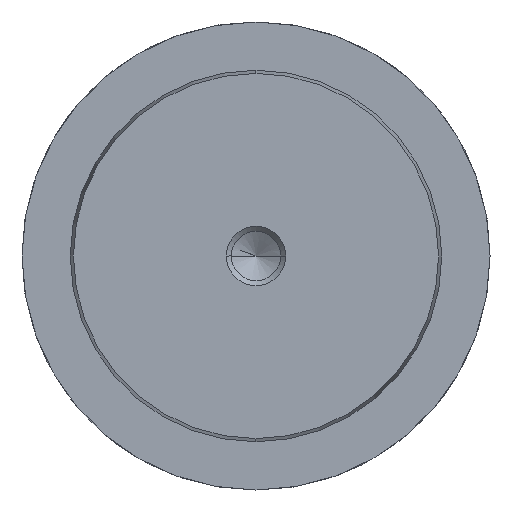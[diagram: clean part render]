
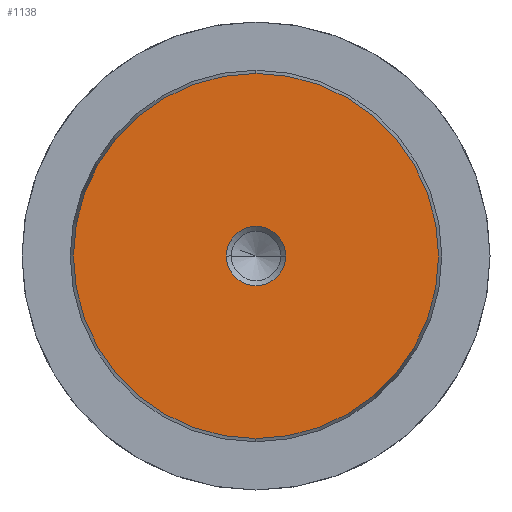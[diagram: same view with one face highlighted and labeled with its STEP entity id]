
A CAD part, left-side view. The second image highlights one B-rep face of the part: STEP entity #1138.
In plain terms, the highlighted planar face has unit normal (-1, 0, 0).
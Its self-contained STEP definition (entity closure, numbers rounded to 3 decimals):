
#1052=CARTESIAN_POINT('Vertex',(0.,0.,-24.578)) ;
#1055=CARTESIAN_POINT('Axis2P3D Location',(0.,0.,0.)) ;
#1059=CARTESIAN_POINT('Vertex',(0.,24.578,0.)) ;
#1062=CARTESIAN_POINT('Axis2P3D Location',(0.,0.,0.)) ;
#1066=CARTESIAN_POINT('Vertex',(0.,0.,24.578)) ;
#1088=CARTESIAN_POINT('Axis2P3D Location',(0.,0.,0.)) ;
#1092=CARTESIAN_POINT('Vertex',(0.,-24.578,0.)) ;
#1095=CARTESIAN_POINT('Axis2P3D Location',(0.,0.,0.)) ;
#1109=CARTESIAN_POINT('Axis2P3D Location',(0.,0.,0.)) ;
#1120=CARTESIAN_POINT('Axis2P3D Location',(0.,0.,0.)) ;
#1124=CARTESIAN_POINT('Vertex',(0.,4.,0.)) ;
#1126=CARTESIAN_POINT('Vertex',(0.,-4.,0.)) ;
#1129=CARTESIAN_POINT('Axis2P3D Location',(0.,0.,0.)) ;
#1056=DIRECTION('Axis2P3D Direction',(1.,-0.,0.)) ;
#1063=DIRECTION('Axis2P3D Direction',(1.,-0.,0.)) ;
#1089=DIRECTION('Axis2P3D Direction',(1.,0.,-0.)) ;
#1096=DIRECTION('Axis2P3D Direction',(1.,0.,-0.)) ;
#1110=DIRECTION('Axis2P3D Direction',(1.,0.,-0.)) ;
#1111=DIRECTION('Axis2P3D XDirection',(-0.,0.,-1.)) ;
#1121=DIRECTION('Axis2P3D Direction',(1.,0.,-0.)) ;
#1130=DIRECTION('Axis2P3D Direction',(1.,0.,-0.)) ;
#1057=AXIS2_PLACEMENT_3D('Circle Axis2P3D',#1055,#1056,$) ;
#1064=AXIS2_PLACEMENT_3D('Circle Axis2P3D',#1062,#1063,$) ;
#1090=AXIS2_PLACEMENT_3D('Circle Axis2P3D',#1088,#1089,$) ;
#1097=AXIS2_PLACEMENT_3D('Circle Axis2P3D',#1095,#1096,$) ;
#1112=AXIS2_PLACEMENT_3D('Plane Axis2P3D',#1109,#1110,#1111) ;
#1122=AXIS2_PLACEMENT_3D('Circle Axis2P3D',#1120,#1121,$) ;
#1131=AXIS2_PLACEMENT_3D('Circle Axis2P3D',#1129,#1130,$) ;
#1115=ORIENTED_EDGE('',*,*,#1061,.F.) ;
#1116=ORIENTED_EDGE('',*,*,#1099,.F.) ;
#1117=ORIENTED_EDGE('',*,*,#1094,.F.) ;
#1118=ORIENTED_EDGE('',*,*,#1068,.F.) ;
#1135=ORIENTED_EDGE('',*,*,#1128,.T.) ;
#1136=ORIENTED_EDGE('',*,*,#1133,.T.) ;
#1137=FACE_BOUND('',#1134,.T.) ;
#1138=ADVANCED_FACE('719-50x400',(#1119,#1137),#1113,.F.) ;
#1058=CIRCLE('generated circle',#1057,24.578) ;
#1065=CIRCLE('generated circle',#1064,24.578) ;
#1091=CIRCLE('generated circle',#1090,24.578) ;
#1098=CIRCLE('generated circle',#1097,24.578) ;
#1123=CIRCLE('generated circle',#1122,4.) ;
#1132=CIRCLE('generated circle',#1131,4.) ;
#1061=EDGE_CURVE('',#1053,#1060,#1058,.T.) ;
#1068=EDGE_CURVE('',#1060,#1067,#1065,.T.) ;
#1094=EDGE_CURVE('',#1067,#1093,#1091,.T.) ;
#1099=EDGE_CURVE('',#1093,#1053,#1098,.T.) ;
#1128=EDGE_CURVE('',#1125,#1127,#1123,.T.) ;
#1133=EDGE_CURVE('',#1127,#1125,#1132,.T.) ;
#1114=EDGE_LOOP('',(#1115,#1116,#1117,#1118)) ;
#1134=EDGE_LOOP('',(#1135,#1136)) ;
#1119=FACE_OUTER_BOUND('',#1114,.T.) ;
#1113=PLANE('Plane',#1112) ;
#1053=VERTEX_POINT('',#1052) ;
#1060=VERTEX_POINT('',#1059) ;
#1067=VERTEX_POINT('',#1066) ;
#1093=VERTEX_POINT('',#1092) ;
#1125=VERTEX_POINT('',#1124) ;
#1127=VERTEX_POINT('',#1126) ;
